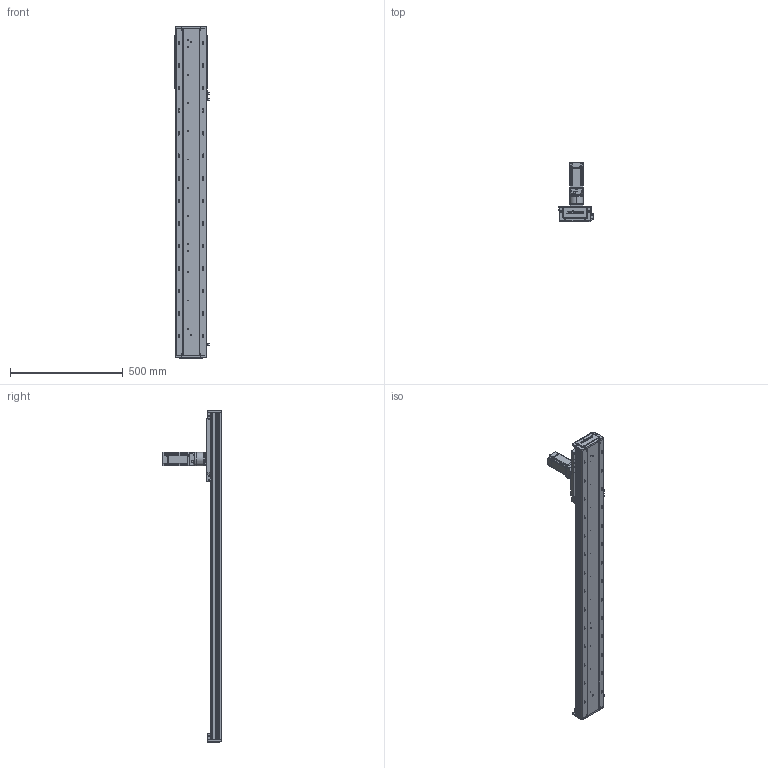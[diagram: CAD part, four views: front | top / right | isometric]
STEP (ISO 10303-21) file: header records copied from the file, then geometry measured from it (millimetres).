
FILE_DESCRIPTION (( 'STEP AP203' ), '1' );
FILE_NAME ('RY140-C-250-UK.SLDASM_1100.step', '2022-03-12T01:58:53', ( '' ), ( '' ), 'SwSTEP 2.0', 'SolidWorks 2016', '' );
FILE_SCHEMA (( 'CONFIG_CONTROL_DESIGN' ));
Length unit declared in the file: millimetre
Products named in the file (12): RY140-喘沭裔啣; RY140-C-250-UK.SLDASM_1100; 絳寢賑輸EGH15; RY140-喘沭賑輸; 60ZDF珨撰俋倛芞T1 200W M4; RY140-300齿条模组型材底座_1100; RY140-絳寢EGH15-300-MK_1100; 覜茼ん672; 140蚥薯蝶輸; RY120外置感应片(140共用）; RY140-喘謫萇儂覃誹啣; 15
Assembly tree (21 placements, depth 2):
  RY140-C-250-UK.SLDASM_1100
    RY140-300齿条模组型材底座_1100
    RY140-絳寢EGH15-300-MK_1100  x2
    絳寢賑輸EGH15  x6
    RY140-喘沭裔啣  x2
    覜茼ん672  x3
    RY140-喘沭賑輸
    RY120外置感应片(140共用）
    RY140-喘謫萇儂覃誹啣
    140蚥薯蝶輸  x2
    60ZDF珨撰俋倛芞T1 200W M4
    15
Bounding box: 153.7 x 263.5 x 1472 mm (x, y, z)
Volume: 5296048 mm3; surface area: 1392248 mm2
Topology: 21 solids, 21 shells, 3462 faces, 9194 edges, 5946 vertices
Faces by surface type: plane 1652, cylinder 1520, cone 244, bspline 46
Entity records: 77453 total; most frequent: CARTESIAN_POINT 16847, DIRECTION 12349, ORIENTED_EDGE 12282, EDGE_CURVE 6141, AXIS2_PLACEMENT_3D 4405, VERTEX_POINT 4019, LINE 3539, VECTOR 3539
